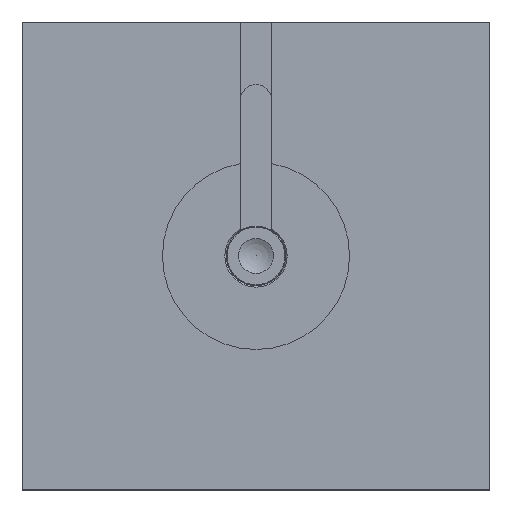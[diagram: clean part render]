
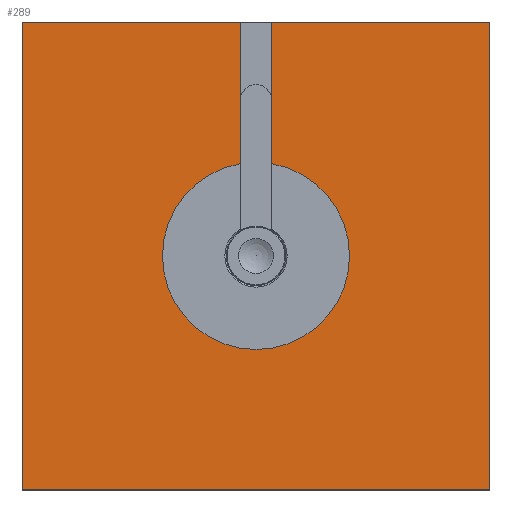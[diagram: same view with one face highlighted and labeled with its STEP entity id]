
A CAD part, top view. The second image highlights one B-rep face of the part: STEP entity #289.
In plain terms, the highlighted planar face has unit normal (0, 0, 1).
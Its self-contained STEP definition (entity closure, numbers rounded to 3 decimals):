
#289 = ADVANCED_FACE( '', ( #682 ), #683, .T. );
#682 = FACE_OUTER_BOUND( '', #1244, .T. );
#683 = PLANE( '', #1245 );
#1244 = EDGE_LOOP( '', ( #1983, #1984, #1985, #1986, #1987, #1988, #1989, #1990 ) );
#1245 = AXIS2_PLACEMENT_3D( '', #1991, #1992, #1993 );
#1983 = ORIENTED_EDGE( '', *, *, #3058, .T. );
#1984 = ORIENTED_EDGE( '', *, *, #3030, .T. );
#1985 = ORIENTED_EDGE( '', *, *, #3059, .T. );
#1986 = ORIENTED_EDGE( '', *, *, #2916, .T. );
#1987 = ORIENTED_EDGE( '', *, *, #3060, .T. );
#1988 = ORIENTED_EDGE( '', *, *, #3061, .T. );
#1989 = ORIENTED_EDGE( '', *, *, #3062, .T. );
#1990 = ORIENTED_EDGE( '', *, *, #3063, .T. );
#1991 = CARTESIAN_POINT( '', ( -150., -150., 0. ) );
#1992 = DIRECTION( '', ( 0., 0., 1. ) );
#1993 = DIRECTION( '', ( 0., -1., 0. ) );
#2916 = EDGE_CURVE( '', #3396, #3397, #3398, .T. );
#3030 = EDGE_CURVE( '', #3591, #3592, #3593, .T. );
#3058 = EDGE_CURVE( '', #3639, #3591, #3640, .T. );
#3059 = EDGE_CURVE( '', #3592, #3396, #3641, .T. );
#3060 = EDGE_CURVE( '', #3397, #3642, #3643, .T. );
#3061 = EDGE_CURVE( '', #3642, #3644, #3645, .T. );
#3062 = EDGE_CURVE( '', #3644, #3646, #3647, .T. );
#3063 = EDGE_CURVE( '', #3646, #3639, #3648, .T. );
#3396 = VERTEX_POINT( '', #4094 );
#3397 = VERTEX_POINT( '', #4095 );
#3398 = LINE( '', #4096, #4097 );
#3591 = VERTEX_POINT( '', #4393 );
#3592 = VERTEX_POINT( '', #4394 );
#3593 = LINE( '', #4395, #4396 );
#3639 = VERTEX_POINT( '', #4464 );
#3640 = CIRCLE( '', #4465, 60. );
#3641 = LINE( '', #4466, #4467 );
#3642 = VERTEX_POINT( '', #4468 );
#3643 = LINE( '', #4469, #4470 );
#3644 = VERTEX_POINT( '', #4471 );
#3645 = LINE( '', #4472, #4473 );
#3646 = VERTEX_POINT( '', #4474 );
#3647 = LINE( '', #4475, #4476 );
#3648 = LINE( '', #4477, #4478 );
#4094 = CARTESIAN_POINT( '', ( -150., 150., 0. ) );
#4095 = CARTESIAN_POINT( '', ( -150., -150., 0. ) );
#4096 = CARTESIAN_POINT( '', ( -150., 150., 0. ) );
#4097 = VECTOR( '', #5072, 1000. );
#4393 = CARTESIAN_POINT( '', ( -10., 59.161, 0. ) );
#4394 = CARTESIAN_POINT( '', ( -10., 150., 0. ) );
#4395 = CARTESIAN_POINT( '', ( -10., 0., 0. ) );
#4396 = VECTOR( '', #5237, 1000. );
#4464 = CARTESIAN_POINT( '', ( 10., 59.161, 0. ) );
#4465 = AXIS2_PLACEMENT_3D( '', #5267, #5268, #5269 );
#4466 = CARTESIAN_POINT( '', ( 150., 150., 0. ) );
#4467 = VECTOR( '', #5270, 1000. );
#4468 = CARTESIAN_POINT( '', ( 150., -150., 0. ) );
#4469 = CARTESIAN_POINT( '', ( -150., -150., 0. ) );
#4470 = VECTOR( '', #5271, 1000. );
#4471 = CARTESIAN_POINT( '', ( 150., 150., 0. ) );
#4472 = CARTESIAN_POINT( '', ( 150., -150., 0. ) );
#4473 = VECTOR( '', #5272, 1000. );
#4474 = CARTESIAN_POINT( '', ( 10., 150., 0. ) );
#4475 = CARTESIAN_POINT( '', ( 150., 150., 0. ) );
#4476 = VECTOR( '', #5273, 1000. );
#4477 = CARTESIAN_POINT( '', ( 10., 150., 0. ) );
#4478 = VECTOR( '', #5274, 1000. );
#5072 = DIRECTION( '', ( 0., -1., 0. ) );
#5237 = DIRECTION( '', ( 0., 1., 0. ) );
#5267 = CARTESIAN_POINT( '', ( 0., 0., 0. ) );
#5268 = DIRECTION( '', ( 0., 0., -1. ) );
#5269 = DIRECTION( '', ( -1., 0., 0. ) );
#5270 = DIRECTION( '', ( -1., 0., 0. ) );
#5271 = DIRECTION( '', ( 1., 0., 0. ) );
#5272 = DIRECTION( '', ( 0., 1., 0. ) );
#5273 = DIRECTION( '', ( -1., 0., 0. ) );
#5274 = DIRECTION( '', ( 0., -1., 0. ) );
